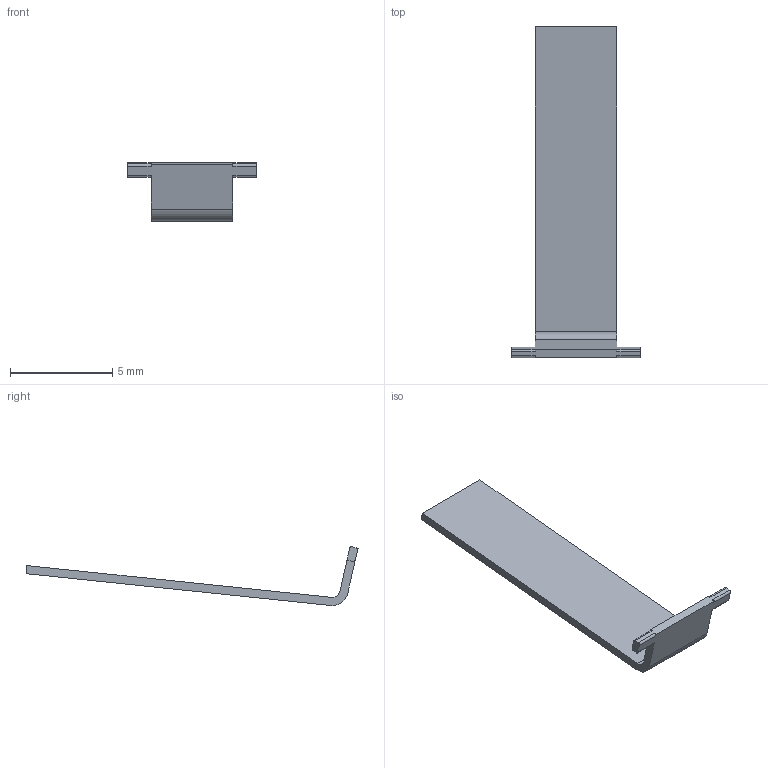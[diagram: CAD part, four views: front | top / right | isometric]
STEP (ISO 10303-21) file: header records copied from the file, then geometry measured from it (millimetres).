
FILE_DESCRIPTION(/* description */ ('STEP AP242 Edition 2','CAx-IF Rec.Pracs.---Representation and Presentation of Product Manufacturing Information (PMI)---4.0---2014-10-13','CAx-IF Rec.Pracs.---3D Tessellated Geometry---0.4---2014-09-14','2;1','CAx-IF Rec.Pracs.---User Defined Attributes---1.5---2016-08-15'),/* implementation_level */ '2;1');
FILE_NAME(/* name */ 'Final Build - Hinge_lever',/* time_stamp */ '2026-08-31T23:26:10Z',/* author */ (''),/* organization */ (''),/* preprocessor_version */ 'ST-DEVELOPER v20',/* originating_system */ 'ONSHAPE BY PTC INC, 1.220',/* authorisation */ ' ');
FILE_SCHEMA (('AP242_MANAGED_MODEL_BASED_3D_ENGINEERING_MIM_LF { 1 0 10303 442 3 1 4 }'));
Length unit declared in the file: metre
Products named in the file (1): Hinge_lever
Bounding box: 6.3 x 16.23 x 2.89 mm (x, y, z)
Volume: 29.5 mm3; surface area: 166.7 mm2
Topology: 1 solids, 1 shells, 26 faces, 72 edges, 48 vertices
Faces by surface type: plane 16, cylinder 10
Entity records: 858 total; most frequent: CARTESIAN_POINT 147, DIRECTION 146, ORIENTED_EDGE 144, EDGE_CURVE 72, LINE 52, VECTOR 52, VERTEX_POINT 48, AXIS2_PLACEMENT_3D 47
